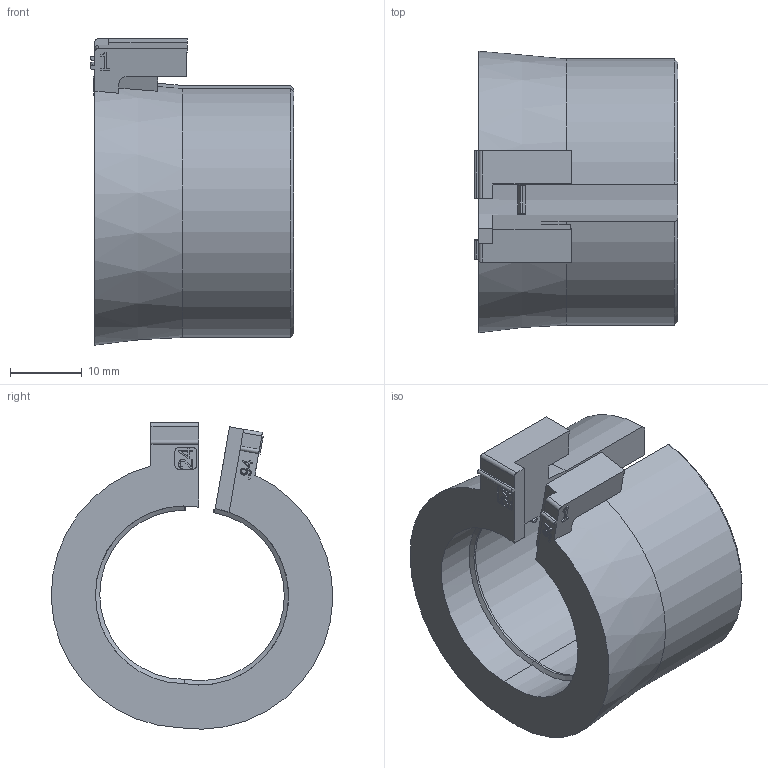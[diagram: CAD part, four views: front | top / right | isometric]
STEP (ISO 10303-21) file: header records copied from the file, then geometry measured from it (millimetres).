
FILE_DESCRIPTION(/* description */ (''),/* implementation_level */ '2;1');
FILE_NAME(/* name */ 'C:\SapWorkDir\Inventor\MP1\ConvertTempPath\87_12_121373_00_A_220602_KDT-X 24.stp',/* time_stamp */ '2022-06-02T09:10:15+02:00',/* author */ ('BAUER'),/* organization */ (''),/* preprocessor_version */ 'ST-DEVELOPER v16.13',/* originating_system */ 'Autodesk Inventor 2018',/* authorisation */ '');
FILE_SCHEMA (('AUTOMOTIVE_DESIGN { 1 0 10303 214 3 1 1 }'));
Length unit declared in the file: millimetre
Products named in the file (1): 121373
Bounding box: 28.4 x 39.28 x 42.75 mm (x, y, z)
Volume: 14598.3 mm3; surface area: 7196.6 mm2
Topology: 1 solids, 1 shells, 161 faces, 429 edges, 280 vertices
Faces by surface type: plane 107, cylinder 24, bspline 22, cone 8
Entity records: 5185 total; most frequent: CARTESIAN_POINT 1180, ORIENTED_EDGE 858, DIRECTION 716, EDGE_CURVE 429, LINE 320, VECTOR 320, VERTEX_POINT 280, AXIS2_PLACEMENT_3D 198
